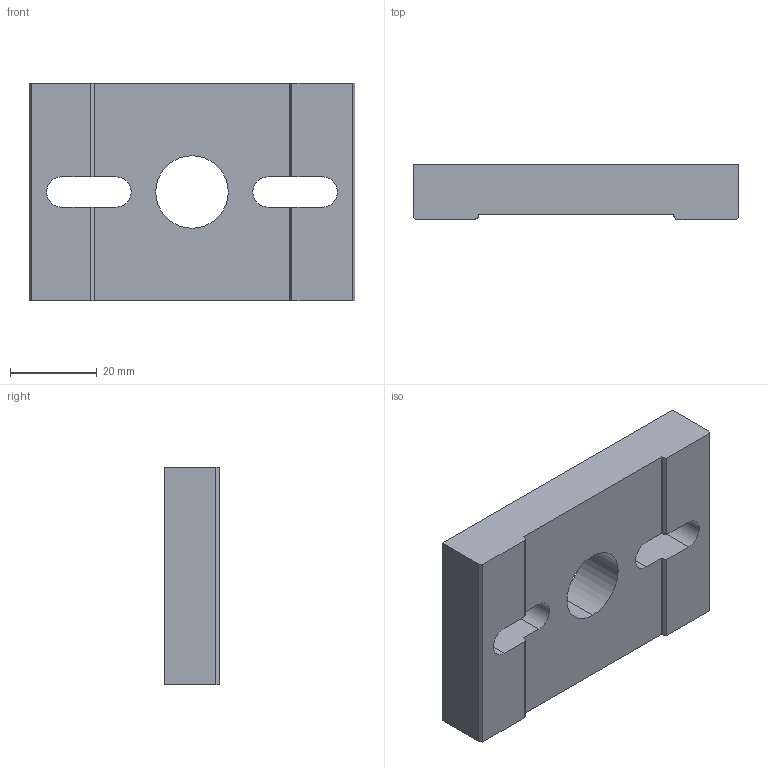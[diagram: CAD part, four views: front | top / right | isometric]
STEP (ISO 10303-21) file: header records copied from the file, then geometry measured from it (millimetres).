
FILE_DESCRIPTION (( 'STEP AP203' ), '1' );
FILE_NAME ('PEB75.step', '2019-05-09T09:05:32', ( '' ), ( '' ), 'SwSTEP 2.0', 'SolidWorks 2016', '' );
FILE_SCHEMA (( 'CONFIG_CONTROL_DESIGN' ));
Length unit declared in the file: millimetre
Products named in the file (1): PEB75
Bounding box: 75 x 12.7 x 50 mm (x, y, z)
Surface area: 11405.1 mm2 (no closed solid volume)
Topology: 0 solids, 1 shells, 62 faces, 407 edges, 336 vertices
Faces by surface type: plane 56, cylinder 6
Entity records: 3872 total; most frequent: CARTESIAN_POINT 806, DIRECTION 545, ORIENTED_EDGE 544, EDGE_CURVE 407, LINE 395, VECTOR 395, VERTEX_POINT 336, EDGE_LOOP 76
